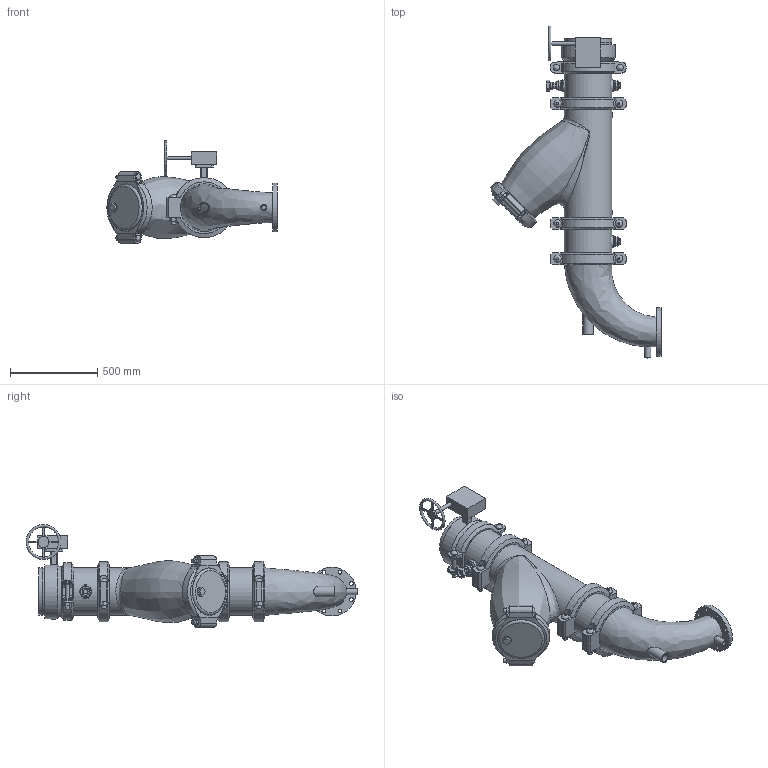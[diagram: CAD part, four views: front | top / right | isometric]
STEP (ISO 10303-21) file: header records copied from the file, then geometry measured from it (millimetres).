
FILE_DESCRIPTION(/* description */ ('VIC SVI PUMP DROP HORZ S/382 (OGSxFLG) (S/924-1.25)','CAx-IF Rec.Pracs.---Representation and Presentation of Product Manufacturing Information (PMI)---4.0---2014-10-13'),/* implementation_level */ '2;1');
FILE_NAME(/* name */ 'C:\Users\Vjadhav\AppData\Roaming\Autodesk\ApplicationPlugins\Victaulic.Temp\A115\Series 382 (OGSxFLG)_924 (1.25)_10.0x06.0 (250x150).stp',/* time_stamp */ '2022-03-17T12:20:48+06:00',/* author */ ('kkamble'),/* organization */ ('Victaulic'),/* preprocessor_version */ 'ST-DEVELOPER v17.2',/* originating_system */ 'Autodesk Inventor 2019',/* authorisation */ '');
FILE_SCHEMA (('AP242_MANAGED_MODEL_BASED_3D_ENGINEERING_MIM_LF { 1 0 10303 442 1 1 4 }'));
Length unit declared in the file: inch
Products named in the file (13): 382_924 (1.25)-10.0x06.0; PIPE-10.0; 107N-10.0; 732-10.0; 732-10.0_1; 07-10.0; 732-10.0_2; 077-10.0; PIPE-10.1; 761-10.0; 924-10.0x01.25; 923-10.0x0.75; R100F-10.0x06.0
Assembly tree (15 placements, depth 3):
  382_924 (1.25)-10.0x06.0
    PIPE-10.0
    107N-10.0
    732-10.0
      732-10.0_1
      07-10.0
      732-10.0_2
    077-10.0  x3
    PIPE-10.1
    761-10.0
    924-10.0x01.25
    923-10.0x0.75  x2
    R100F-10.0x06.0
Bounding box: 977.89 x 1907.33 x 591.16 mm (x, y, z)
Volume: 36257102.3 mm3; surface area: 5760015.8 mm2
Topology: 14 solids, 24 shells, 757 faces, 1892 edges, 1278 vertices
Faces by surface type: plane 427, cylinder 254, bspline 36, cone 27, torus 9, sphere 4
Full cylindrical faces by diameter (mm): 10.922 x4, 12.7 x1, 20.066 x1, 21.336 x3, 22.225 x8, 22.352 x8, 22.86 x1, 25.4 x12, 26.67 x4, 27.432 x6, 34.29 x1, 37.694 x4, 38.608 x1, 42.164 x1, 45.974 x6, 48.26 x1, 48.514 x1, 50.8 x1, 55.626 x3, 60.96 x1, 63.079 x1, 70.104 x1, 76.2 x2, 154.051 x1, 241.3 x1, 254.508 x5, 254.762 x1, 260.35 x2, 264.16 x3, 268.275 x11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
Entity records: 24699 total; most frequent: CARTESIAN_POINT 9210, DIRECTION 3117, ORIENTED_EDGE 2912, EDGE_CURVE 1456, AXIS2_PLACEMENT_3D 1195, VERTEX_POINT 987, LINE 727, VECTOR 727
